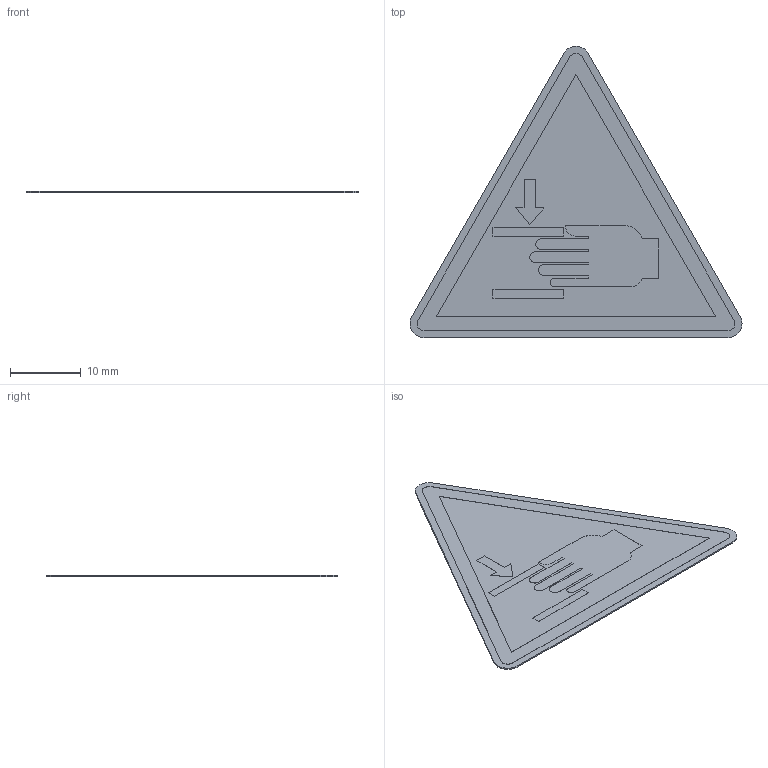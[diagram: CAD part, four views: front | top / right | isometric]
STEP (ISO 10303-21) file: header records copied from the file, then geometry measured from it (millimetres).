
FILE_DESCRIPTION (( 'STEP AP214' ), '1' );
FILE_NAME ('W024_Warnung vor Handverletzungen.STEP', '2022-02-22T08:21:05', ( '' ), ( '' ), 'SwSTEP 2.0', 'SolidWorks 2021', '' );
FILE_SCHEMA (( 'AUTOMOTIVE_DESIGN' ));
Length unit declared in the file: millimetre
Products named in the file (1): W024_Warnung vor Handverletzungen
Bounding box: 47.07 x 41.3 x 0.22 mm (x, y, z)
Volume: 221.6 mm3; surface area: 2183.7 mm2
Topology: 1 solids, 1 shells, 69 faces, 183 edges, 122 vertices
Faces by surface type: plane 49, cylinder 20
Entity records: 2820 total; most frequent: CARTESIAN_POINT 375, ORIENTED_EDGE 366, DIRECTION 363, EDGE_CURVE 183, LINE 143, VECTOR 143, VERTEX_POINT 122, AXIS2_PLACEMENT_3D 110
